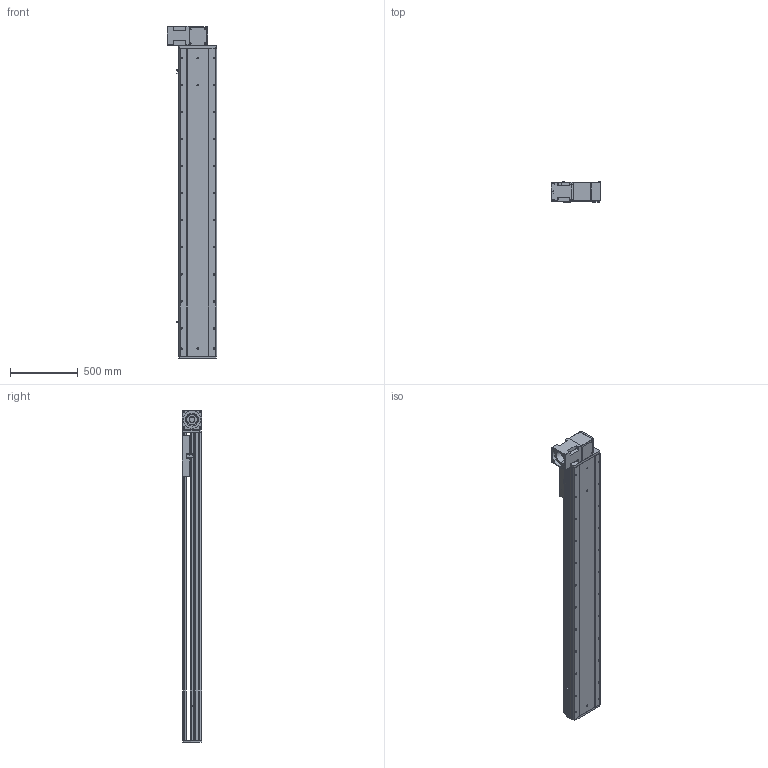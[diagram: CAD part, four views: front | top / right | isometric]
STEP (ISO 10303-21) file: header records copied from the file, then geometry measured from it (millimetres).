
FILE_DESCRIPTION (( 'STEP AP214' ), '1' );
FILE_NAME ('RTB28R-XX-1850-BR-M100-XX-C4.STEP', '2025-12-22T01:18:28', ( '' ), ( '' ), 'SwSTEP 2.0', 'SolidWorks 2018', '' );
FILE_SCHEMA (( 'AUTOMOTIVE_DESIGN' ));
Length unit declared in the file: millimetre
Products named in the file (4): RTB28S-GY-004^RTB28R-XX-XX-BR-M100-XX-C4; RTB28S-GY-011^RTB28R-XX-XX-BR-M100-XX-C4; RTB28R-XX-1850-BR-M100-XX-C4; RTB28S-GY-008^RTB28R-XX-XX-BR-M100-XX-C4
Assembly tree (3 placements, depth 2):
  RTB28R-XX-1850-BR-M100-XX-C4
    RTB28S-GY-011^RTB28R-XX-XX-BR-M100-XX-C4
    RTB28S-GY-004^RTB28R-XX-XX-BR-M100-XX-C4
    RTB28S-GY-008^RTB28R-XX-XX-BR-M100-XX-C4
Bounding box: 370 x 145 x 2457 mm (x, y, z)
Volume: 43001663.6 mm3; surface area: 4068991 mm2
Topology: 3 solids, 4 shells, 1028 faces, 2730 edges, 1756 vertices
Faces by surface type: plane 464, cylinder 393, bspline 87, cone 80, torus 4
Entity records: 44146 total; most frequent: CARTESIAN_POINT 11845, ORIENTED_EDGE 5396, DIRECTION 5262, EDGE_CURVE 2698, AXIS2_PLACEMENT_3D 1825, VERTEX_POINT 1756, VECTOR 1612, LINE 1612
